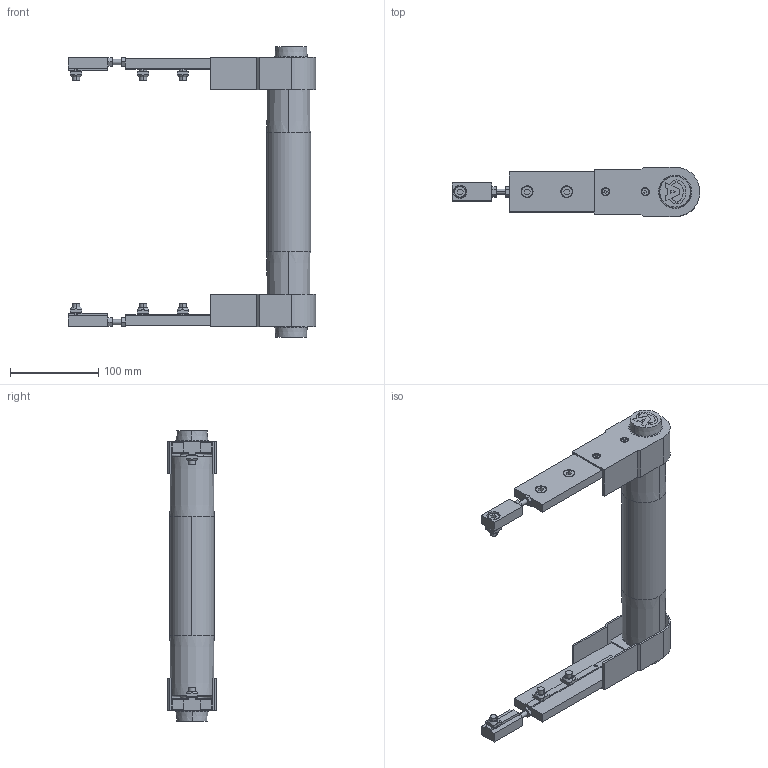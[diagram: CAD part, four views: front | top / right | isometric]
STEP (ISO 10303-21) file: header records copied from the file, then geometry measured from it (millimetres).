
FILE_DESCRIPTION (( 'STEP AP203' ), '1' );
FILE_NAME ('084.050.KIS.250.STEP', '2019-07-29T10:19:53', ( '' ), ( '' ), 'SwSTEP 2.0', 'SolidWorks 2018', '' );
FILE_SCHEMA (( 'CONFIG_CONTROL_DESIGN' ));
Length unit declared in the file: millimetre
Products named in the file (11): 084.810.001; 084.301.000 VITI ALUSIC_084.301.003; 084.802.023_084.802.023; 084.302.000 DADI ALUSIC 13x13_084.302.004; 084.050.KIS.250; 084.802.008; 084.811.004; 084.815.104_Default<A macchina>; 084.802.017_084.802.017; 084.807.002_084.807.002; VITI TSEI UNI 5933_M4x12 UNI 5933
Assembly tree (29 placements, depth 2):
  084.050.KIS.250
    084.802.023_084.802.023  x2
    084.807.002_084.807.002  x2
    084.802.017_084.802.017  x2
    084.815.104_Default<A macchina>
    084.810.001  x2
    084.802.008  x2
    084.301.000 VITI ALUSIC_084.301.003  x6
    084.302.000 DADI ALUSIC 13x13_084.302.004  x6
    084.811.004  x2
    VITI TSEI UNI 5933_M4x12 UNI 5933  x4
Bounding box: 281 x 56 x 330 mm (x, y, z)
Volume: 526809.1 mm3; surface area: 313388.4 mm2
Topology: 35 solids, 37 shells, 892 faces, 2204 edges, 1428 vertices
Faces by surface type: plane 446, cylinder 250, cone 92, torus 80, bspline 16, sphere 8
Entity records: 14237 total; most frequent: CARTESIAN_POINT 2444, DIRECTION 2252, ORIENTED_EDGE 2024, EDGE_CURVE 1012, AXIS2_PLACEMENT_3D 853, VERTEX_POINT 661, LINE 546, VECTOR 546
